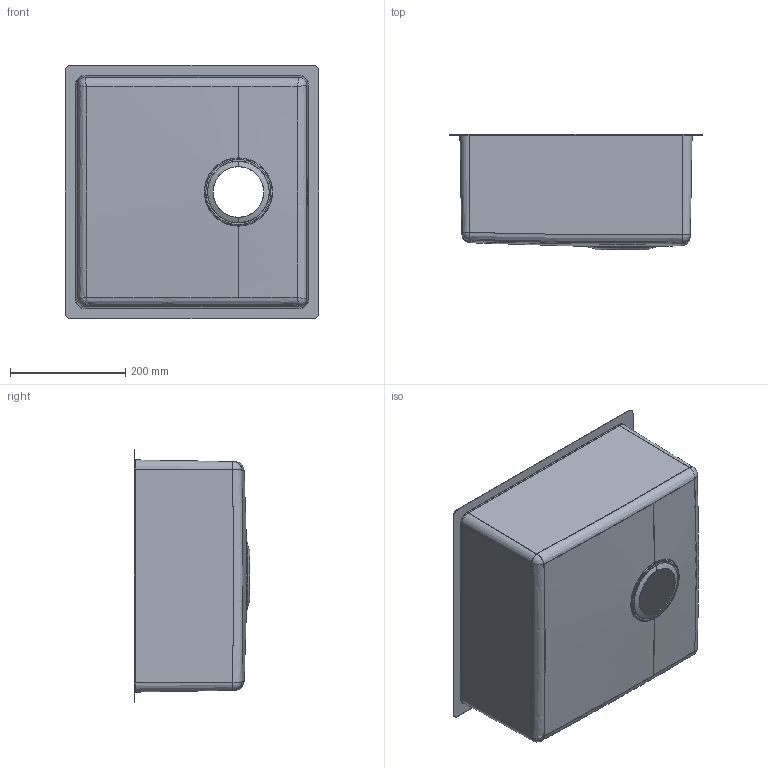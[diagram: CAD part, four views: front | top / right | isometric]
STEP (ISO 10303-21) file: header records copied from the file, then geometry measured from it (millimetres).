
FILE_DESCRIPTION (( 'STEP AP203' ), '1' );
FILE_NAME ('SPACE400R15.STEP', '2018-11-08T12:06:38', ( '' ), ( '' ), 'SwSTEP 2.0', 'SolidWorks 2013', '' );
FILE_SCHEMA (( 'CONFIG_CONTROL_DESIGN' ));
Length unit declared in the file: millimetre
Products named in the file (1): SPACE400R15
Bounding box: 440 x 200.15 x 440 mm (x, y, z)
Volume: 466316.7 mm3; surface area: 937570.1 mm2
Topology: 1 solids, 1 shells, 219 faces, 572 edges, 362 vertices
Faces by surface type: plane 93, bspline 72, cylinder 32, cone 16, torus 6
Entity records: 21433 total; most frequent: CARTESIAN_POINT 16497, ORIENTED_EDGE 1128, DIRECTION 802, EDGE_CURVE 564, VERTEX_POINT 362, LINE 310, VECTOR 310, AXIS2_PLACEMENT_3D 246
